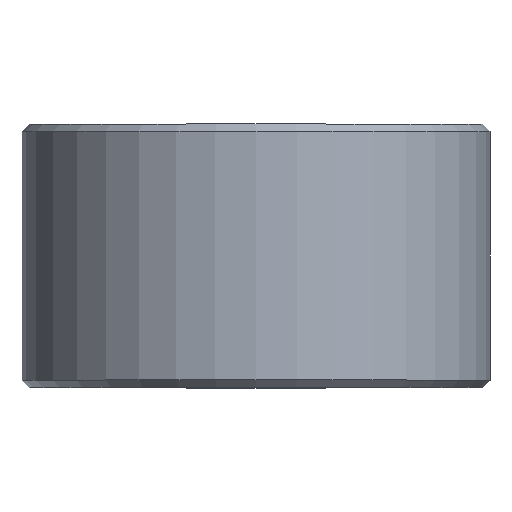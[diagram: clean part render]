
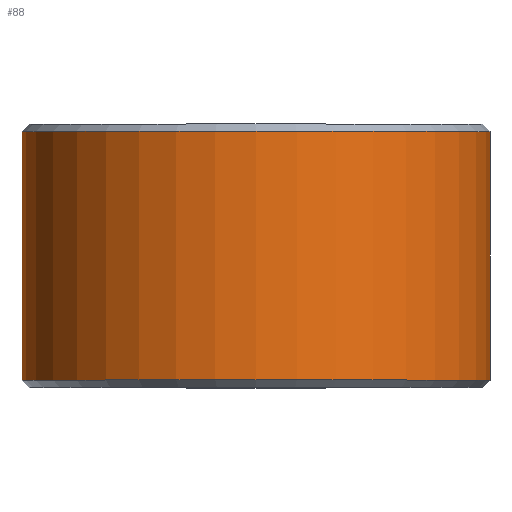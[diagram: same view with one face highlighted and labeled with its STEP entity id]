
A CAD part, top view. The second image highlights one B-rep face of the part: STEP entity #88.
In plain terms, the highlighted cylindrical face has radius 8 mm (diameter 16 mm), a full revolution.
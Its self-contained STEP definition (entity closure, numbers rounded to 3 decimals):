
#19=CYLINDRICAL_SURFACE('',#110,8.);
#22=FACE_OUTER_BOUND('',#28,.T.);
#28=EDGE_LOOP('',(#69,#70,#71,#72));
#36=LINE('',#159,#40);
#40=VECTOR('',#132,8.);
#43=CIRCLE('',#108,8.);
#45=CIRCLE('',#111,8.);
#49=VERTEX_POINT('',#151);
#51=VERTEX_POINT('',#157);
#55=EDGE_CURVE('',#49,#49,#43,.T.);
#58=EDGE_CURVE('',#51,#51,#45,.T.);
#59=EDGE_CURVE('',#51,#49,#36,.T.);
#69=ORIENTED_EDGE('',*,*,#58,.F.);
#70=ORIENTED_EDGE('',*,*,#59,.T.);
#71=ORIENTED_EDGE('',*,*,#55,.F.);
#72=ORIENTED_EDGE('',*,*,#59,.F.);
#88=ADVANCED_FACE('',(#22),#19,.T.);
#108=AXIS2_PLACEMENT_3D('',#152,#123,#124);
#110=AXIS2_PLACEMENT_3D('',#156,#128,#129);
#111=AXIS2_PLACEMENT_3D('',#158,#130,#131);
#123=DIRECTION('center_axis',(0.,-1.,0.));
#124=DIRECTION('ref_axis',(1.,0.,0.));
#128=DIRECTION('center_axis',(0.,1.,0.));
#129=DIRECTION('ref_axis',(1.,0.,0.));
#130=DIRECTION('center_axis',(0.,1.,0.));
#131=DIRECTION('ref_axis',(1.,0.,0.));
#132=DIRECTION('',(0.,-1.,0.));
#151=CARTESIAN_POINT('',(-8.,0.25,0.));
#152=CARTESIAN_POINT('Origin',(0.,0.25,0.));
#156=CARTESIAN_POINT('Origin',(0.,0.,0.));
#157=CARTESIAN_POINT('',(-8.,8.75,0.));
#158=CARTESIAN_POINT('Origin',(0.,8.75,0.));
#159=CARTESIAN_POINT('',(-8.,0.,0.));
